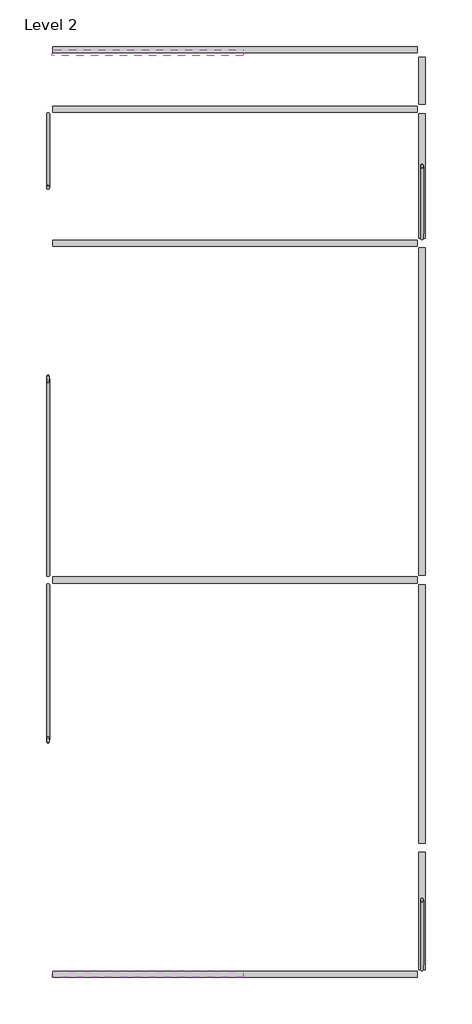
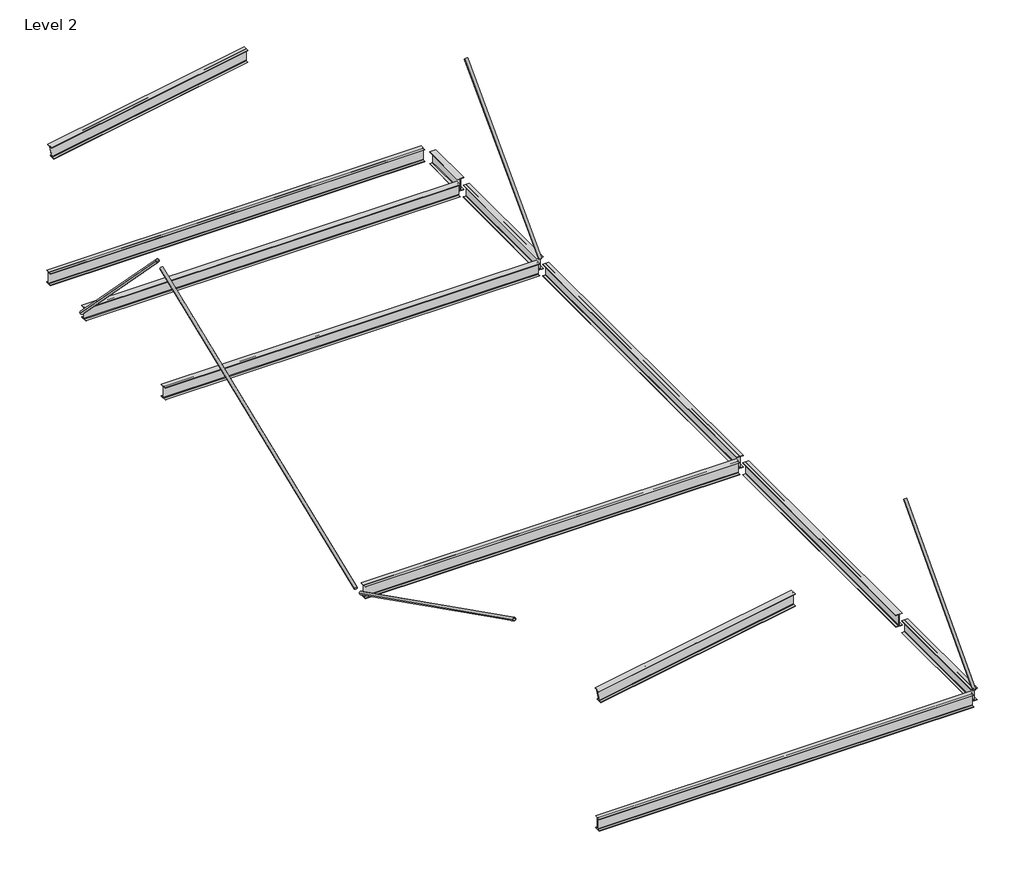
# One storey: 12 beams, 5 members.
"""IFC4 building model written with IfcOpenShell, lengths in millimetres."""

from ifc_helpers import new_model, si_unit, frame, origin, place, context, project, spatial, polyline, circle_curve, ellipse_curve, transform, mapped, element, save
from ifc_brep_helpers import plane_surface, revolved_surface, advanced_brep
from components import w_shapes_w8x10_4e24d253, w_shapes_w8x10_52d2aaeb, w_shapes_w8x10_0597b553, w_shapes_w8x10_5ccd87fd, w_shapes_w8x10_c1dda1f8, w_shapes_w8x10_e2f7d50d, hss_round_hss1_9x_188_7fa8458e, hss_round_hss1_9x_188_115ef0f0, hss_round_hss1_9x_188_fb8ceaad, hss_round_hss1_9x_188_14ffc6d0, hss_round_hss1_9x_188_45c71154

model = new_model("IFC4")

# Units and contexts
model_context = context("Model", 3, world=origin())
ifc_project = project(units=[si_unit("LENGTHUNIT", "METRE", prefix="MILLI")], contexts=[model_context])

# Site, building, storey
site = spatial("IfcSite", under=ifc_project)
building = spatial("IfcBuilding", under=site)
storey = spatial("IfcBuildingStorey", under=building, Name="Level 2", Elevation=3657.6)

# Beams
placement = place(None, origin())
element("IfcBeam", 1, ObjectType="W Shapes : W8X10", at=placement, inside=storey, context=model_context, shape_type="AdvancedBrep", body=[
    advanced_brep(
    [(-3052.4401664, 1613.4704583, 6330.8839899), (-3052.4401664, 1713.5464583, 6330.8839899), (-6145.2600056, 1713.5464583, 5785.5364057), (-6145.2600056, 1613.4704583, 5785.5364057), (-6111.3640549, 1713.5464583, 5593.3029172), (-6110.4598689, 1713.5464583, 5588.1750232), (-6110.4598689, 1613.4704583, 5588.1750232), (-6111.3640549, 1613.4704583, 5593.3029172), (-6111.3640549, 1653.7294583, 5593.3029172), (-6112.687254, 1661.3494583, 5600.8071522), (-6143.0326204, 1661.3494583, 5772.9042767), (-6144.3558195, 1653.7294583, 5780.4085118), (-6144.3558195, 1613.4704583, 5780.4085118), (-6144.3558195, 1713.5464583, 5780.4085118), (-6144.3558195, 1673.2874583, 5780.4085118), (-6143.0326204, 1665.6674583, 5772.9042767), (-6112.687254, 1665.6674583, 5600.8071522), (-6111.3640549, 1673.2874583, 5593.3029172), (-3052.4401664, 1673.2874583, 6132.6737306), (-3052.4401664, 1713.5464583, 6132.6737306), (-3052.4401664, 1665.6674583, 6140.4112814), (-3052.4401664, 1665.6674583, 6317.8591127), (-3052.4401664, 1673.2874583, 6325.5966635), (-3052.4401664, 1713.5464583, 6325.5966635), (-3052.4401664, 1613.4704583, 6325.5966635), (-3052.4401664, 1653.7294583, 6325.5966635), (-3052.4401664, 1661.3494583, 6317.8591127), (-3052.4401664, 1661.3494583, 6140.4112814), (-3052.4401664, 1653.7294583, 6132.6737306), (-3052.4401664, 1613.4704583, 6132.6737306), (-3052.4401664, 1613.4704583, 6127.3864043), (-3052.4401664, 1713.5464583, 6127.3864043)],
    [
        (0, 1),
        (1, 2),
        (2, 3),
        (3, 0),
        (4, 5),
        (5, 6),
        (6, 7),
        (7, 8),
        (8, 9, circle_curve(frame((-6112.687254, 1653.7294583, 5600.8071522), z_axis=(0.9848077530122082, 0.0, 0.17364817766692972), x_axis=(0.0, -1.0000000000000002, 0.0)), 7.62)),
        (9, 10),
        (10, 11, circle_curve(frame((-6143.0326204, 1653.7294583, 5772.9042767), z_axis=(0.9848077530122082, 0.0, 0.17364817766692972), x_axis=(0.0, -1.0000000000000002, 0.0)), 7.62)),
        (11, 12),
        (12, 3),
        (2, 13),
        (13, 14),
        (14, 15, circle_curve(frame((-6143.0326204, 1673.2874583, 5772.9042767), z_axis=(0.9848077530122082, 0.0, 0.17364817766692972), x_axis=(0.0, -1.0000000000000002, 0.0)), 7.62)),
        (15, 16),
        (16, 17, circle_curve(frame((-6112.687254, 1673.2874583, 5600.8071522), z_axis=(0.9848077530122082, 0.0, 0.17364817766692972), x_axis=(0.0, -1.0000000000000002, 0.0)), 7.62)),
        (17, 4),
        (18, 19),
        (19, 4),
        (17, 18),
        (20, 18, ellipse_curve(frame((-3052.4401664, 1673.2874583, 6140.4112814), z_axis=(1.0, 0.0, 0.0), x_axis=(0.0, 0.0, -1.0)), 7.7375508, 7.62)),
        (16, 20),
        (21, 20),
        (15, 21),
        (22, 21, ellipse_curve(frame((-3052.4401664, 1673.2874583, 6317.8591127), z_axis=(1.0, 0.0, 0.0), x_axis=(0.0, 0.0, -1.0)), 7.7375508, 7.62)),
        (14, 22),
        (23, 22),
        (13, 23),
        (1, 23),
        (24, 0),
        (12, 24),
        (25, 24),
        (11, 25),
        (26, 25, ellipse_curve(frame((-3052.4401664, 1653.7294583, 6317.8591127), z_axis=(1.0, 0.0, 0.0), x_axis=(0.0, 0.0, -1.0)), 7.7375508, 7.62)),
        (10, 26),
        (27, 26),
        (9, 27),
        (28, 27, ellipse_curve(frame((-3052.4401664, 1653.7294583, 6140.4112814), z_axis=(1.0, 0.0, 0.0), x_axis=(0.0, 0.0, -1.0)), 7.7375508, 7.62)),
        (8, 28),
        (29, 28),
        (7, 29),
        (30, 29),
        (6, 30),
        (31, 30),
        (5, 31),
        (19, 31),
    ],
    [
        plane_surface(frame((-3052.4401664, 1713.5464583, 6330.8839899), z_axis=(-0.17364817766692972, 0.0, 0.9848077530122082), x_axis=(-0.9848077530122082, 0.0, -0.17364817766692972))),
        plane_surface(frame((-6127.8599372, 1663.5084583, 5686.8557145), z_axis=(-0.9848077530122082, 0.0, -0.17364817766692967), x_axis=(-0.17364817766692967, 0.0, 0.9848077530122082))),
        plane_surface(frame((-3018.5442158, 1713.5464583, 6138.6505013), z_axis=(-0.17364817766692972, 0.0, 0.9848077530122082), x_axis=(-0.9848077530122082, 0.0, -0.17364817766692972))),
        revolved_surface(polyline([(-6112.687254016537, 1665.6674583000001, 5600.807152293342), (-3051.1169672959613, 1665.6674583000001, 6140.644597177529)]), (-3019.8674149, 1673.2874583, 6146.1547364), (-0.9848077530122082, 0.0, -0.17364817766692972)),
        plane_surface(frame((-3019.8674149, 1665.6674583, 6146.1547364), z_axis=(0.0, 1.0000000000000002, 0.0), x_axis=(-0.9848077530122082, 0.0, -0.17364817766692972))),
        revolved_surface(polyline([(-6143.032620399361, 1665.6674583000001, 5772.904276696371), (-3051.116967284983, 1665.6674583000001, 6318.092428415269)]), (-3050.2127813, 1673.2874583, 6318.2518608), (-0.9848077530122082, 0.0, -0.17364817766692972)),
        plane_surface(frame((-3051.5359804, 1673.2874583, 6325.7560959), z_axis=(0.17364817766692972, 0.0, -0.9848077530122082), x_axis=(-0.9848077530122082, 0.0, -0.17364817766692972))),
        plane_surface(frame((-3051.5359804, 1713.5464583, 6325.7560959), z_axis=(0.0, 1.0000000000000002, 0.0), x_axis=(-0.9848077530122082, 0.0, -0.17364817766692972))),
        plane_surface(frame((-3052.4401664, 1613.4704583, 6330.8839899), z_axis=(0.0, -1.0000000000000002, 0.0), x_axis=(-0.9848077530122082, 0.0, -0.17364817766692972))),
        plane_surface(frame((-3051.5359804, 1613.4704583, 6325.7560959), z_axis=(0.17364817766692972, 0.0, -0.9848077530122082), x_axis=(-0.9848077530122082, 0.0, -0.17364817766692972))),
        revolved_surface(polyline([(-6143.032620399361, 1646.1094583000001, 5772.904276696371), (-3051.116967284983, 1646.1094583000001, 6318.092428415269)]), (-3050.2127813, 1653.7294583, 6318.2518608), (-0.9848077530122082, 0.0, -0.17364817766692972)),
        plane_surface(frame((-3050.2127813, 1661.3494583, 6318.2518608), z_axis=(0.0, -1.0000000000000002, 0.0), x_axis=(-0.9848077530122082, 0.0, -0.17364817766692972))),
        revolved_surface(polyline([(-6112.687254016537, 1646.1094583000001, 5600.807152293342), (-3051.1169672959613, 1646.1094583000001, 6140.644597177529)]), (-3019.8674149, 1653.7294583, 6146.1547364), (-0.9848077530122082, 0.0, -0.17364817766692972)),
        plane_surface(frame((-3018.5442158, 1653.7294583, 6138.6505013), z_axis=(-0.17364817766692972, 0.0, 0.9848077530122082), x_axis=(-0.9848077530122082, 0.0, -0.17364817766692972))),
        plane_surface(frame((-3018.5442158, 1613.4704583, 6138.6505013), z_axis=(0.0, -1.0000000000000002, 0.0), x_axis=(-0.9848077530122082, 0.0, -0.17364817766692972))),
        plane_surface(frame((-3017.6400297, 1613.4704583, 6133.5226073), z_axis=(0.17364817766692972, 0.0, -0.9848077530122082), x_axis=(-0.9848077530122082, 0.0, -0.17364817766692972))),
        plane_surface(frame((-3017.6400297, 1713.5464583, 6133.5226073), z_axis=(0.0, 1.0000000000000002, 0.0), x_axis=(-0.9848077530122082, 0.0, -0.17364817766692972))),
        plane_surface(frame((-3052.4401664, 1663.5084583, 6330.8839899), z_axis=(1.0, 0.0, 0.0), x_axis=(0.0, -1.0, 0.0))),
    ],
    [
        (0, [[1, 2, 3, 4]]),
        (1, [[5, 6, 7, 8, 9, 10, 11, 12, 13, -3, 14, 15, 16, 17, 18, 19]]),
        (2, [[20, 21, -19, 22]]),
        (3, [[23, -22, -18, 24]]),
        (4, [[25, -24, -17, 26]]),
        (5, [[27, -26, -16, 28]]),
        (6, [[29, -28, -15, 30]]),
        (7, [[31, -30, -14, -2]]),
        (8, [[32, -4, -13, 33]]),
        (9, [[34, -33, -12, 35]]),
        (10, [[36, -35, -11, 37]]),
        (11, [[38, -37, -10, 39]]),
        (12, [[40, -39, -9, 41]]),
        (13, [[42, -41, -8, 43]]),
        (14, [[44, -43, -7, 45]]),
        (15, [[46, -45, -6, 47]]),
        (16, [[48, -47, -5, -21]]),
        (17, [[-20, -23, -25, -27, -29, -31, -1, -32, -34, -36, -38, -40, -42, -44, -46, -48]]),
    ],
),
])
element("IfcBeam", 2, ObjectType="W Shapes : W8X10", at=placement, inside=storey, context=model_context, shape_type="AdvancedBrep", body=[
    advanced_brep(
    [(-3052.4401664, 16541.8668866, 6330.8839899), (-3052.4401664, 16641.9428866, 6330.8839899), (-6145.2600056, 16641.9428866, 5785.5364057), (-6145.2600056, 16541.8668866, 5785.5364057), (-6111.3640549, 16641.9428866, 5593.3029172), (-6110.4598689, 16641.9428866, 5588.1750232), (-6110.4598689, 16541.8668866, 5588.1750232), (-6111.3640549, 16541.8668866, 5593.3029172), (-6111.3640549, 16582.1258866, 5593.3029172), (-6112.687254, 16589.7458866, 5600.8071522), (-6143.0326204, 16589.7458866, 5772.9042767), (-6144.3558195, 16582.1258866, 5780.4085118), (-6144.3558195, 16541.8668866, 5780.4085118), (-6144.3558195, 16641.9428866, 5780.4085118), (-6144.3558195, 16601.6838866, 5780.4085118), (-6143.0326204, 16594.0638866, 5772.9042767), (-6112.687254, 16594.0638866, 5600.8071522), (-6111.3640549, 16601.6838866, 5593.3029172), (-3052.4401664, 16601.6838866, 6132.6737306), (-3052.4401664, 16641.9428866, 6132.6737306), (-3052.4401664, 16594.0638866, 6140.4112814), (-3052.4401664, 16594.0638866, 6317.8591127), (-3052.4401664, 16601.6838866, 6325.5966635), (-3052.4401664, 16641.9428866, 6325.5966635), (-3052.4401664, 16541.8668866, 6325.5966635), (-3052.4401664, 16582.1258866, 6325.5966635), (-3052.4401664, 16589.7458866, 6317.8591127), (-3052.4401664, 16589.7458866, 6140.4112814), (-3052.4401664, 16582.1258866, 6132.6737306), (-3052.4401664, 16541.8668866, 6132.6737306), (-3052.4401664, 16541.8668866, 6127.3864043), (-3052.4401664, 16641.9428866, 6127.3864043)],
    [
        (0, 1),
        (1, 2),
        (2, 3),
        (3, 0),
        (4, 5),
        (5, 6),
        (6, 7),
        (7, 8),
        (8, 9, circle_curve(frame((-6112.687254, 16582.1258866, 5600.8071522), z_axis=(0.9848077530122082, 0.0, 0.17364817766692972), x_axis=(0.0, -1.0000000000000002, 0.0)), 7.62)),
        (9, 10),
        (10, 11, circle_curve(frame((-6143.0326204, 16582.1258866, 5772.9042767), z_axis=(0.9848077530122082, 0.0, 0.17364817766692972), x_axis=(0.0, -1.0000000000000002, 0.0)), 7.62)),
        (11, 12),
        (12, 3),
        (2, 13),
        (13, 14),
        (14, 15, circle_curve(frame((-6143.0326204, 16601.6838866, 5772.9042767), z_axis=(0.9848077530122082, 0.0, 0.17364817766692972), x_axis=(0.0, -1.0000000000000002, 0.0)), 7.62)),
        (15, 16),
        (16, 17, circle_curve(frame((-6112.687254, 16601.6838866, 5600.8071522), z_axis=(0.9848077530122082, 0.0, 0.17364817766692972), x_axis=(0.0, -1.0000000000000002, 0.0)), 7.62)),
        (17, 4),
        (18, 19),
        (19, 4),
        (17, 18),
        (20, 18, ellipse_curve(frame((-3052.4401664, 16601.6838866, 6140.4112814), z_axis=(1.0, 0.0, 0.0), x_axis=(0.0, 0.0, -1.0)), 7.7375508, 7.62)),
        (16, 20),
        (21, 20),
        (15, 21),
        (22, 21, ellipse_curve(frame((-3052.4401664, 16601.6838866, 6317.8591127), z_axis=(1.0, 0.0, 0.0), x_axis=(0.0, 0.0, -1.0)), 7.7375508, 7.62)),
        (14, 22),
        (23, 22),
        (13, 23),
        (1, 23),
        (24, 0),
        (12, 24),
        (25, 24),
        (11, 25),
        (26, 25, ellipse_curve(frame((-3052.4401664, 16582.1258866, 6317.8591127), z_axis=(1.0, 0.0, 0.0), x_axis=(0.0, 0.0, -1.0)), 7.7375508, 7.62)),
        (10, 26),
        (27, 26),
        (9, 27),
        (28, 27, ellipse_curve(frame((-3052.4401664, 16582.1258866, 6140.4112814), z_axis=(1.0, 0.0, 0.0), x_axis=(0.0, 0.0, -1.0)), 7.7375508, 7.62)),
        (8, 28),
        (29, 28),
        (7, 29),
        (30, 29),
        (6, 30),
        (31, 30),
        (5, 31),
        (19, 31),
    ],
    [
        plane_surface(frame((-3052.4401664, 16641.9428866, 6330.8839899), z_axis=(-0.17364817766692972, 0.0, 0.9848077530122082), x_axis=(-0.9848077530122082, 0.0, -0.17364817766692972))),
        plane_surface(frame((-6127.8599372, 16591.9048866, 5686.8557145), z_axis=(-0.9848077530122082, 0.0, -0.17364817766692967), x_axis=(-0.17364817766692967, 0.0, 0.9848077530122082))),
        plane_surface(frame((-3018.5442158, 16641.9428866, 6138.6505013), z_axis=(-0.17364817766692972, 0.0, 0.9848077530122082), x_axis=(-0.9848077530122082, 0.0, -0.17364817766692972))),
        revolved_surface(polyline([(-6112.687254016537, 16594.0638866, 5600.807152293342), (-3051.1169672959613, 16594.0638866, 6140.644597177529)]), (-3019.8674149, 16601.6838866, 6146.1547364), (-0.9848077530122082, 0.0, -0.17364817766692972)),
        plane_surface(frame((-3019.8674149, 16594.0638866, 6146.1547364), z_axis=(0.0, 1.0000000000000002, 0.0), x_axis=(-0.9848077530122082, 0.0, -0.17364817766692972))),
        revolved_surface(polyline([(-6143.032620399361, 16594.0638866, 5772.904276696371), (-3051.116967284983, 16594.0638866, 6318.092428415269)]), (-3050.2127813, 16601.6838866, 6318.2518608), (-0.9848077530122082, 0.0, -0.17364817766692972)),
        plane_surface(frame((-3051.5359804, 16601.6838866, 6325.7560959), z_axis=(0.17364817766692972, 0.0, -0.9848077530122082), x_axis=(-0.9848077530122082, 0.0, -0.17364817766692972))),
        plane_surface(frame((-3051.5359804, 16641.9428866, 6325.7560959), z_axis=(0.0, 1.0000000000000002, 0.0), x_axis=(-0.9848077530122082, 0.0, -0.17364817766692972))),
        plane_surface(frame((-3052.4401664, 16541.8668866, 6330.8839899), z_axis=(0.0, -1.0000000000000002, 0.0), x_axis=(-0.9848077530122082, 0.0, -0.17364817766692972))),
        plane_surface(frame((-3051.5359804, 16541.8668866, 6325.7560959), z_axis=(0.17364817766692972, 0.0, -0.9848077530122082), x_axis=(-0.9848077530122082, 0.0, -0.17364817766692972))),
        revolved_surface(polyline([(-6143.032620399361, 16574.5058866, 5772.904276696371), (-3051.116967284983, 16574.5058866, 6318.092428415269)]), (-3050.2127813, 16582.1258866, 6318.2518608), (-0.9848077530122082, 0.0, -0.17364817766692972)),
        plane_surface(frame((-3050.2127813, 16589.7458866, 6318.2518608), z_axis=(0.0, -1.0000000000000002, 0.0), x_axis=(-0.9848077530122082, 0.0, -0.17364817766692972))),
        revolved_surface(polyline([(-6112.687254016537, 16574.5058866, 5600.807152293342), (-3051.1169672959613, 16574.5058866, 6140.644597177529)]), (-3019.8674149, 16582.1258866, 6146.1547364), (-0.9848077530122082, 0.0, -0.17364817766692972)),
        plane_surface(frame((-3018.5442158, 16582.1258866, 6138.6505013), z_axis=(-0.17364817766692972, 0.0, 0.9848077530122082), x_axis=(-0.9848077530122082, 0.0, -0.17364817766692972))),
        plane_surface(frame((-3018.5442158, 16541.8668866, 6138.6505013), z_axis=(0.0, -1.0000000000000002, 0.0), x_axis=(-0.9848077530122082, 0.0, -0.17364817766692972))),
        plane_surface(frame((-3017.6400297, 16541.8668866, 6133.5226073), z_axis=(0.17364817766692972, 0.0, -0.9848077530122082), x_axis=(-0.9848077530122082, 0.0, -0.17364817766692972))),
        plane_surface(frame((-3017.6400297, 16641.9428866, 6133.5226073), z_axis=(0.0, 1.0000000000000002, 0.0), x_axis=(-0.9848077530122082, 0.0, -0.17364817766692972))),
        plane_surface(frame((-3052.4401664, 16591.9048866, 6330.8839899), z_axis=(1.0, 0.0, 0.0), x_axis=(0.0, -1.0, 0.0))),
    ],
    [
        (0, [[1, 2, 3, 4]]),
        (1, [[5, 6, 7, 8, 9, 10, 11, 12, 13, -3, 14, 15, 16, 17, 18, 19]]),
        (2, [[20, 21, -19, 22]]),
        (3, [[23, -22, -18, 24]]),
        (4, [[25, -24, -17, 26]]),
        (5, [[27, -26, -16, 28]]),
        (6, [[29, -28, -15, 30]]),
        (7, [[31, -30, -14, -2]]),
        (8, [[32, -4, -13, 33]]),
        (9, [[34, -33, -12, 35]]),
        (10, [[36, -35, -11, 37]]),
        (11, [[38, -37, -10, 39]]),
        (12, [[40, -39, -9, 41]]),
        (13, [[42, -41, -8, 43]]),
        (14, [[44, -43, -7, 45]]),
        (15, [[46, -45, -6, 47]]),
        (16, [[48, -47, -5, -21]]),
        (17, [[-20, -23, -25, -27, -29, -31, -1, -32, -34, -36, -38, -40, -42, -44, -46, -48]]),
    ],
),
])
w_shapes_w8x10_shape = w_shapes_w8x10_4e24d253(model_context)
element("IfcBeam", 3, ObjectType="W Shapes : W8X10", at=placement, inside=storey, context=model_context, shape_type="MappedRepresentation", body=[
    mapped(w_shapes_w8x10_shape, transform((-156.8401664, 5882.6298868, 3557.397), x_axis=(0.0, 1.0, 0.0), y_axis=(-1.0, 0.0, 0.0), z_axis=(0.0, 0.0, 1.0))),
])
w_shapes_w8x10_2_shape = w_shapes_w8x10_52d2aaeb(model_context)
element("IfcBeam", 4, ObjectType="W Shapes : W8X10", at=placement, inside=storey, context=model_context, shape_type="MappedRepresentation", body=[
    mapped(w_shapes_w8x10_2_shape, transform((-156.8401664, 10778.9334581, 3557.397), x_axis=(0.0, 1.0, 0.0), y_axis=(-1.0, 0.0, 0.0), z_axis=(0.0, 0.0, 1.0))),
])
w_shapes_w8x10_3_shape = w_shapes_w8x10_0597b553(model_context)
element("IfcBeam", 5, ObjectType="W Shapes : W8X10", at=placement, inside=storey, context=model_context, shape_type="MappedRepresentation", body=[
    mapped(w_shapes_w8x10_3_shape, transform((-156.8401664, 14592.3352438, 3557.397), x_axis=(0.0, 1.0, 0.0), y_axis=(-1.0, 0.0, 0.0), z_axis=(0.0, 0.0, 1.0))),
])
w_shapes_w8x10_4_shape = w_shapes_w8x10_5ccd87fd(model_context)
element("IfcBeam", 6, ObjectType="W Shapes : W8X10", at=placement, inside=storey, context=model_context, shape_type="MappedRepresentation", body=[
    mapped(w_shapes_w8x10_4_shape, transform((-3185.7901664, 16642.7048866, 3557.397), x_axis=(1.0, 0.0, 0.0), y_axis=(0.0, 1.0, 0.0), z_axis=(0.0, 0.0, 1.0))),
])
element("IfcBeam", 7, ObjectType="W Shapes : W8X10", at=placement, inside=storey, context=model_context, shape_type="MappedRepresentation", body=[
    mapped(w_shapes_w8x10_4_shape, transform((-3185.7901664, 15677.5048866, 3557.397), x_axis=(1.0, 0.0, 0.0), y_axis=(0.0, 1.0, 0.0), z_axis=(0.0, 0.0, 1.0))),
])
element("IfcBeam", 8, ObjectType="W Shapes : W8X10", at=placement, inside=storey, context=model_context, shape_type="MappedRepresentation", body=[
    mapped(w_shapes_w8x10_4_shape, transform((-3185.7901664, 13507.1656009, 3557.397), x_axis=(1.0, 0.0, 0.0), y_axis=(0.0, 1.0, 0.0), z_axis=(0.0, 0.0, 1.0))),
])
element("IfcBeam", 9, ObjectType="W Shapes : W8X10", at=placement, inside=storey, context=model_context, shape_type="MappedRepresentation", body=[
    mapped(w_shapes_w8x10_4_shape, transform((-3185.7901664, 8050.7013153, 3557.397), x_axis=(1.0, 0.0, 0.0), y_axis=(0.0, 1.0, 0.0), z_axis=(0.0, 0.0, 1.0))),
])
element("IfcBeam", 10, ObjectType="W Shapes : W8X10", at=placement, inside=storey, context=model_context, shape_type="MappedRepresentation", body=[
    mapped(w_shapes_w8x10_4_shape, transform((-3185.7901664, 1663.5084583, 3557.397), x_axis=(1.0, 0.0, 0.0), y_axis=(0.0, 1.0, 0.0), z_axis=(0.0, 0.0, 1.0))),
])
w_shapes_w8x10_5_shape = w_shapes_w8x10_c1dda1f8(model_context)
element("IfcBeam", 11, ObjectType="W Shapes : W8X10", at=placement, inside=storey, context=model_context, shape_type="MappedRepresentation", body=[
    mapped(w_shapes_w8x10_5_shape, transform((-156.8401664, 16160.1048866, 3557.397), x_axis=(0.0, 1.0, 0.0), y_axis=(-1.0, 0.0, 0.0), z_axis=(0.0, 0.0, 1.0))),
])
w_shapes_w8x10_6_shape = w_shapes_w8x10_e2f7d50d(model_context)
element("IfcBeam", 12, ObjectType="W Shapes : W8X10", at=placement, inside=storey, context=model_context, shape_type="MappedRepresentation", body=[
    mapped(w_shapes_w8x10_6_shape, transform((-156.8401664, 2689.0334583, 3557.397), x_axis=(0.0, 1.0, 0.0), y_axis=(-1.0, 0.0, 0.0), z_axis=(0.0, 0.0, 1.0))),
])

# Members
hss_round_hss1_9x_188_shape = hss_round_hss1_9x_188_7fa8458e(model_context)
element("IfcMember", 13, ObjectType="HSS Round : HSS1.9X.188", at=placement, inside=storey, context=model_context, shape_type="MappedRepresentation", body=[
    mapped(hss_round_hss1_9x_188_shape, transform((-156.8401664, 2689.0334583, 4665.8653072), x_axis=(0.0, 0.6791104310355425, 0.7340361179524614), y_axis=(-1.0000000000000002, 0.0, 0.0), z_axis=(0.0, -0.7340361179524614, 0.6791104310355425))),
])
hss_round_hss1_9x_188_2_shape = hss_round_hss1_9x_188_115ef0f0(model_context)
element("IfcMember", 14, ObjectType="HSS Round : HSS1.9X.188", at=placement, inside=storey, context=model_context, shape_type="MappedRepresentation", body=[
    mapped(hss_round_hss1_9x_188_2_shape, transform((-6214.7401664, 5882.6298868, 4646.4542031), x_axis=(0.0, 0.8935977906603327, -0.4488685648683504), y_axis=(-1.0000000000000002, 0.0, 0.0), z_axis=(0.0, 0.4488685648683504, 0.8935977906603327))),
])
hss_round_hss1_9x_188_3_shape = hss_round_hss1_9x_188_fb8ceaad(model_context)
element("IfcMember", 15, ObjectType="HSS Round : HSS1.9X.188", at=placement, inside=storey, context=model_context, shape_type="MappedRepresentation", body=[
    mapped(hss_round_hss1_9x_188_3_shape, transform((-6214.7401664, 10778.9334581, 4646.4542031), x_axis=(0.0, 0.9287388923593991, 0.37073450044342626), y_axis=(-1.0000000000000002, 0.0, 0.0), z_axis=(0.0, -0.37073450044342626, 0.9287388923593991))),
])
hss_round_hss1_9x_188_4_shape = hss_round_hss1_9x_188_14ffc6d0(model_context)
element("IfcMember", 16, ObjectType="HSS Round : HSS1.9X.188", at=placement, inside=storey, context=model_context, shape_type="MappedRepresentation", body=[
    mapped(hss_round_hss1_9x_188_4_shape, transform((-156.8401664, 14592.3352438, 4691.2653072), x_axis=(0.0, 0.6914222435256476, 0.7224508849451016), y_axis=(-1.0000000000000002, 0.0, 0.0), z_axis=(0.0, -0.7224508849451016, 0.6914222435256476))),
])
hss_round_hss1_9x_188_5_shape = hss_round_hss1_9x_188_45c71154(model_context)
element("IfcMember", 17, ObjectType="HSS Round : HSS1.9X.188", at=placement, inside=storey, context=model_context, shape_type="MappedRepresentation", body=[
    mapped(hss_round_hss1_9x_188_5_shape, transform((-6214.7401664, 14592.3352438, 4671.8542031), x_axis=(0.0, 0.6976299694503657, -0.716458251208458), y_axis=(-1.0000000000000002, 0.0, 0.0), z_axis=(0.0, 0.716458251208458, 0.6976299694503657))),
])

save(model, "model.ifc")
